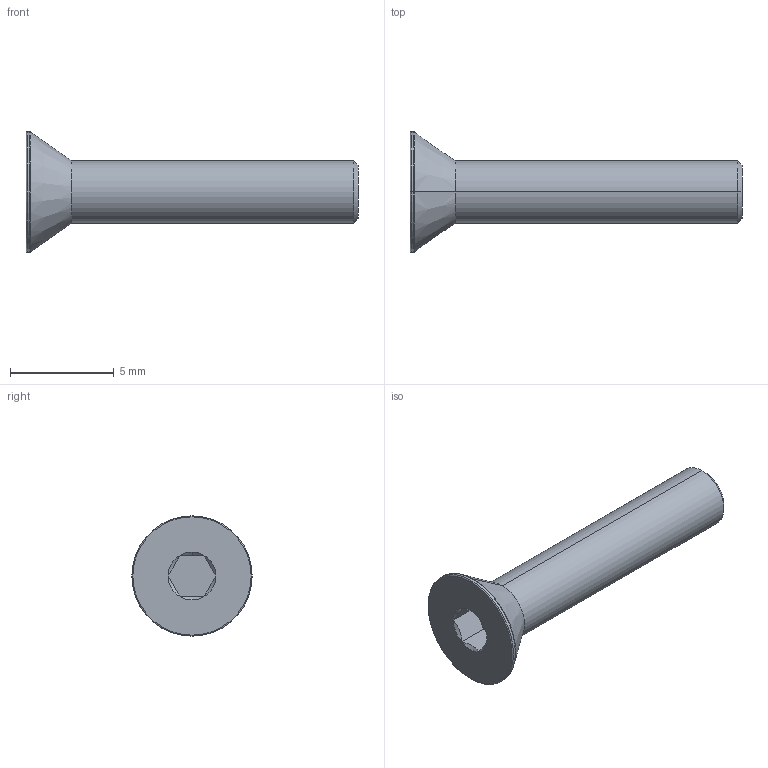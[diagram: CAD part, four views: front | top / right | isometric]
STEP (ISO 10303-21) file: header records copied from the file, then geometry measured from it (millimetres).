
FILE_DESCRIPTION (( 'STEP AP203' ), '1' );
FILE_NAME ('LGDB-304-M3x16.STEP', '2026-08-10T14:07:28', ( '' ), ( '' ), 'SwSTEP 2.0', 'SolidWorks 2020', '' );
FILE_SCHEMA (( 'CONFIG_CONTROL_DESIGN' ));
Length unit declared in the file: millimetre
Products named in the file (1): LGDB-304-M3x16
Bounding box: 16 x 5.8 x 5.8 mm (x, y, z)
Volume: 128.8 mm3; surface area: 209.4 mm2
Topology: 1 solids, 1 shells, 28 faces, 53 edges, 28 vertices
Faces by surface type: cone 11, plane 9, torus 4, cylinder 4
Entity records: 780 total; most frequent: CARTESIAN_POINT 141, DIRECTION 129, ORIENTED_EDGE 106, AXIS2_PLACEMENT_3D 54, EDGE_CURVE 53, EDGE_LOOP 29, VERTEX_POINT 28, FACE_OUTER_BOUND 28
